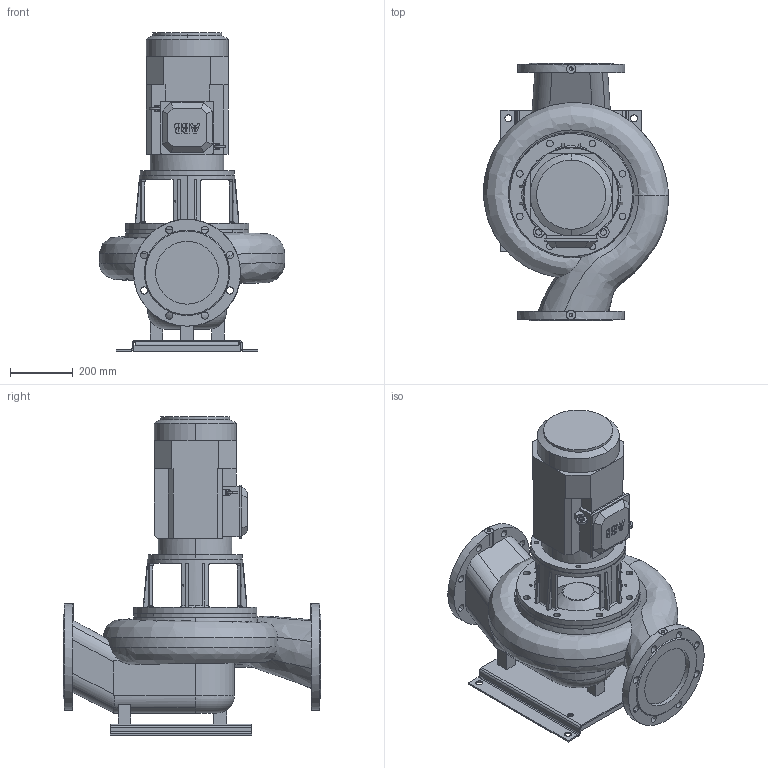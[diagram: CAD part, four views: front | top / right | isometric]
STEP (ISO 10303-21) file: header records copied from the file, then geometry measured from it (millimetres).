
FILE_DESCRIPTION(('STEP AP214'),'1');
FILE_NAME('export.stp','2018-05-29T13:44:25',(' '),(' '),'Spatial InterOp 3D',' ',' ');
FILE_SCHEMA(('AUTOMOTIVE_DESIGN { 1 0 10303 214 1 1 1 1 }'));
Length unit declared in the file: millimetre
Products named in the file (9): W_AL12026SD550; V_TLL100SAL1202; V_PPAL1202; P100464; P100462; P101191; IEC132_FRAME; IEC-132; P100906
Assembly tree (9 placements, depth 3):
  W_AL12026SD550
    V_TLL100SAL1202
    V_PPAL1202
    P100464
      P100462
      P101191  x2
    IEC132_FRAME
      IEC-132
      P100906
Bounding box: 589.13 x 820.22 x 1014 mm (x, y, z)
Volume: 89653114.1 mm3; surface area: 3520315.1 mm2
Topology: 7 solids, 7 shells, 641 faces, 1776 edges, 1160 vertices
Faces by surface type: plane 280, cylinder 274, cone 32, bspline 29, torus 26
Entity records: 28513 total; most frequent: CARTESIAN_POINT 8034, ORIENTED_EDGE 3368, DIRECTION 3212, EDGE_CURVE 1684, AXIS2_PLACEMENT_3D 1193, VERTEX_POINT 1108, LINE 826, VECTOR 826
